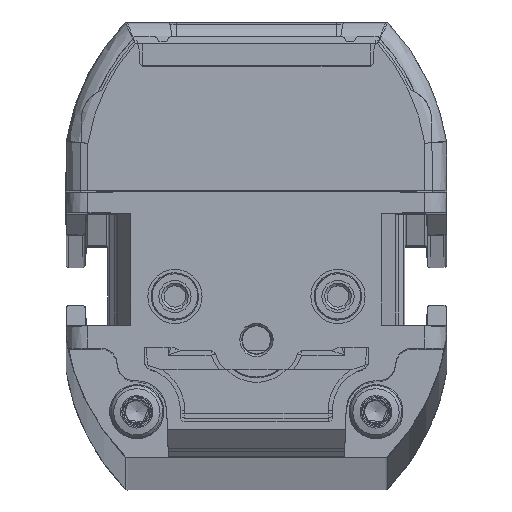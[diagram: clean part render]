
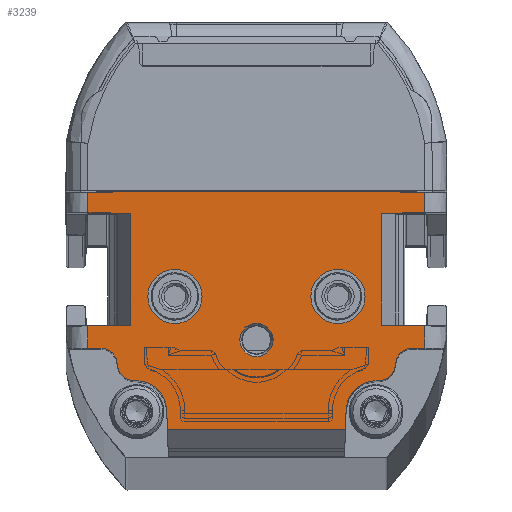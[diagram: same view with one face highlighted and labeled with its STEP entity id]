
A CAD part, top view. The second image highlights one B-rep face of the part: STEP entity #3239.
In plain terms, the highlighted planar face has unit normal (0, 0, 1).
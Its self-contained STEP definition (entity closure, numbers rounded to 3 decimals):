
#1178=FACE_BOUND('',#5343,.T.);
#1179=FACE_BOUND('',#5344,.T.);
#1180=FACE_BOUND('',#5345,.T.);
#1181=FACE_BOUND('',#5346,.T.);
#1900=CIRCLE('',#17502,2.5);
#1901=CIRCLE('',#17504,2.5);
#1902=CIRCLE('',#17506,1.55);
#1905=CIRCLE('',#17576,1.5);
#1906=CIRCLE('',#17577,1.5);
#1907=CIRCLE('',#17578,1.5);
#1908=CIRCLE('',#17579,1.5);
#1909=CIRCLE('',#17580,2.75);
#1910=CIRCLE('',#17581,2.75);
#3239=ADVANCED_FACE('',(#1178,#1179,#1180,#1181),#3754,.T.);
#3754=PLANE('',#17582);
#5343=EDGE_LOOP('',(#9281));
#5344=EDGE_LOOP('',(#9282));
#5345=EDGE_LOOP('',(#9283));
#5346=EDGE_LOOP('',(#9284,#9285,#9286,#9287,#9288,#9289,#9290,#9291,#9292,
#9293,#9294,#9295,#9296,#9297,#9298,#9299,#9300,#9301,#9302,#9303,#9304,
#9305,#9306,#9307,#9308,#9309));
#9281=ORIENTED_EDGE('',*,*,#13579,.T.);
#9282=ORIENTED_EDGE('',*,*,#13578,.F.);
#9283=ORIENTED_EDGE('',*,*,#13577,.F.);
#9284=ORIENTED_EDGE('',*,*,#13699,.F.);
#9285=ORIENTED_EDGE('',*,*,#13700,.T.);
#9286=ORIENTED_EDGE('',*,*,#13701,.T.);
#9287=ORIENTED_EDGE('',*,*,#13702,.T.);
#9288=ORIENTED_EDGE('',*,*,#13630,.T.);
#9289=ORIENTED_EDGE('',*,*,#13576,.T.);
#9290=ORIENTED_EDGE('',*,*,#13573,.T.);
#9291=ORIENTED_EDGE('',*,*,#13572,.T.);
#9292=ORIENTED_EDGE('',*,*,#13698,.T.);
#9293=ORIENTED_EDGE('',*,*,#13703,.F.);
#9294=ORIENTED_EDGE('',*,*,#13704,.F.);
#9295=ORIENTED_EDGE('',*,*,#13705,.F.);
#9296=ORIENTED_EDGE('',*,*,#13692,.T.);
#9297=ORIENTED_EDGE('',*,*,#13568,.F.);
#9298=ORIENTED_EDGE('',*,*,#13564,.T.);
#9299=ORIENTED_EDGE('',*,*,#13563,.F.);
#9300=ORIENTED_EDGE('',*,*,#13603,.T.);
#9301=ORIENTED_EDGE('',*,*,#13706,.F.);
#9302=ORIENTED_EDGE('',*,*,#13707,.T.);
#9303=ORIENTED_EDGE('',*,*,#13708,.T.);
#9304=ORIENTED_EDGE('',*,*,#13709,.F.);
#9305=ORIENTED_EDGE('',*,*,#13710,.F.);
#9306=ORIENTED_EDGE('',*,*,#13711,.F.);
#9307=ORIENTED_EDGE('',*,*,#13611,.T.);
#9308=ORIENTED_EDGE('',*,*,#13712,.F.);
#9309=ORIENTED_EDGE('',*,*,#13713,.F.);
#11499=VERTEX_POINT('',#29891);
#11500=VERTEX_POINT('',#29893);
#11501=VERTEX_POINT('',#29897);
#11502=VERTEX_POINT('',#29901);
#11504=VERTEX_POINT('',#29907);
#11506=VERTEX_POINT('',#29911);
#11507=VERTEX_POINT('',#29915);
#11508=VERTEX_POINT('',#29919);
#11509=VERTEX_POINT('',#29923);
#11510=VERTEX_POINT('',#29926);
#11511=VERTEX_POINT('',#29929);
#11528=VERTEX_POINT('',#30023);
#11533=VERTEX_POINT('',#30037);
#11534=VERTEX_POINT('',#30039);
#11547=VERTEX_POINT('',#30079);
#11581=VERTEX_POINT('',#30332);
#11585=VERTEX_POINT('',#30342);
#11586=VERTEX_POINT('',#30346);
#11587=VERTEX_POINT('',#30347);
#11588=VERTEX_POINT('',#30349);
#11589=VERTEX_POINT('',#30351);
#11590=VERTEX_POINT('',#30354);
#11591=VERTEX_POINT('',#30356);
#11592=VERTEX_POINT('',#30359);
#11593=VERTEX_POINT('',#30361);
#11594=VERTEX_POINT('',#30363);
#11595=VERTEX_POINT('',#30365);
#11596=VERTEX_POINT('',#30367);
#11597=VERTEX_POINT('',#30370);
#13563=EDGE_CURVE('',#11500,#11499,#15088,.T.);
#13564=EDGE_CURVE('',#11501,#11499,#15089,.T.);
#13568=EDGE_CURVE('',#11501,#11502,#15092,.T.);
#13572=EDGE_CURVE('',#11504,#11506,#15095,.T.);
#13573=EDGE_CURVE('',#11507,#11504,#15096,.T.);
#13576=EDGE_CURVE('',#11508,#11507,#15098,.T.);
#13577=EDGE_CURVE('',#11509,#11509,#1900,.T.);
#13578=EDGE_CURVE('',#11510,#11510,#1901,.T.);
#13579=EDGE_CURVE('',#11511,#11511,#1902,.T.);
#13603=EDGE_CURVE('',#11500,#11528,#15113,.T.);
#13611=EDGE_CURVE('',#11533,#11534,#15119,.T.);
#13630=EDGE_CURVE('',#11547,#11508,#15132,.T.);
#13692=EDGE_CURVE('',#11581,#11502,#15175,.T.);
#13698=EDGE_CURVE('',#11506,#11585,#15177,.T.);
#13699=EDGE_CURVE('',#11586,#11587,#15178,.T.);
#13700=EDGE_CURVE('',#11586,#11588,#1905,.T.);
#13701=EDGE_CURVE('',#11588,#11589,#1906,.T.);
#13702=EDGE_CURVE('',#11589,#11547,#15179,.T.);
#13703=EDGE_CURVE('',#11590,#11585,#15180,.T.);
#13704=EDGE_CURVE('',#11591,#11590,#15181,.T.);
#13705=EDGE_CURVE('',#11581,#11591,#15182,.T.);
#13706=EDGE_CURVE('',#11592,#11528,#15183,.T.);
#13707=EDGE_CURVE('',#11592,#11593,#1907,.T.);
#13708=EDGE_CURVE('',#11593,#11594,#1908,.T.);
#13709=EDGE_CURVE('',#11595,#11594,#15184,.T.);
#13710=EDGE_CURVE('',#11596,#11595,#1909,.T.);
#13711=EDGE_CURVE('',#11533,#11596,#15185,.T.);
#13712=EDGE_CURVE('',#11597,#11534,#15186,.T.);
#13713=EDGE_CURVE('',#11587,#11597,#1910,.T.);
#15088=LINE('',#29894,#16251);
#15089=LINE('',#29896,#16252);
#15092=LINE('',#29904,#16255);
#15095=LINE('',#29912,#16258);
#15096=LINE('',#29914,#16259);
#15098=LINE('',#29920,#16261);
#15113=LINE('',#30024,#16276);
#15119=LINE('',#30040,#16282);
#15132=LINE('',#30078,#16295);
#15175=LINE('',#30331,#16338);
#15177=LINE('',#30343,#16340);
#15178=LINE('',#30345,#16341);
#15179=LINE('',#30352,#16342);
#15180=LINE('',#30353,#16343);
#15181=LINE('',#30355,#16344);
#15182=LINE('',#30357,#16345);
#15183=LINE('',#30358,#16346);
#15184=LINE('',#30364,#16347);
#15185=LINE('',#30368,#16348);
#15186=LINE('',#30369,#16349);
#16251=VECTOR('',#20699,1.);
#16252=VECTOR('',#20702,1.);
#16255=VECTOR('',#20709,1.);
#16258=VECTOR('',#20716,1.);
#16259=VECTOR('',#20719,1.);
#16261=VECTOR('',#20725,1.);
#16276=VECTOR('',#20776,1.);
#16282=VECTOR('',#20790,1.);
#16295=VECTOR('',#20829,1.);
#16338=VECTOR('',#20940,1.);
#16340=VECTOR('',#20952,1.);
#16341=VECTOR('',#20955,1.);
#16342=VECTOR('',#20960,1.);
#16343=VECTOR('',#20961,1.);
#16344=VECTOR('',#20962,1.);
#16345=VECTOR('',#20963,1.);
#16346=VECTOR('',#20964,1.);
#16347=VECTOR('',#20969,1.);
#16348=VECTOR('',#20972,1.);
#16349=VECTOR('',#20973,1.);
#17502=AXIS2_PLACEMENT_3D('',#29922,#20728,#20729);
#17504=AXIS2_PLACEMENT_3D('',#29925,#20732,#20733);
#17506=AXIS2_PLACEMENT_3D('',#29928,#20736,#20737);
#17576=AXIS2_PLACEMENT_3D('',#30348,#20956,#20957);
#17577=AXIS2_PLACEMENT_3D('',#30350,#20958,#20959);
#17578=AXIS2_PLACEMENT_3D('',#30360,#20965,#20966);
#17579=AXIS2_PLACEMENT_3D('',#30362,#20967,#20968);
#17580=AXIS2_PLACEMENT_3D('',#30366,#20970,#20971);
#17581=AXIS2_PLACEMENT_3D('',#30371,#20974,#20975);
#17582=AXIS2_PLACEMENT_3D('',#30372,#20976,#20977);
#20699=DIRECTION('',(1.,0.017,0.));
#20702=DIRECTION('',(0.,-1.,0.));
#20709=DIRECTION('',(-1.,0.017,0.));
#20716=DIRECTION('',(1.,0.017,0.));
#20719=DIRECTION('',(0.,1.,0.));
#20725=DIRECTION('',(-1.,0.017,0.));
#20728=DIRECTION('',(0.,0.,1.));
#20729=DIRECTION('',(1.,0.,0.));
#20732=DIRECTION('',(0.,0.,1.));
#20733=DIRECTION('',(1.,0.,0.));
#20736=DIRECTION('',(0.,0.,-1.));
#20737=DIRECTION('',(1.,0.,0.));
#20776=DIRECTION('',(0.,-1.,0.));
#20790=DIRECTION('',(1.,0.,0.));
#20829=DIRECTION('',(0.,1.,0.));
#20940=DIRECTION('',(0.,-1.,0.));
#20952=DIRECTION('',(0.,1.,0.));
#20955=DIRECTION('',(-1.,0.,0.));
#20956=DIRECTION('',(0.,0.,1.));
#20957=DIRECTION('',(1.,0.,0.));
#20958=DIRECTION('',(0.,0.,-1.));
#20959=DIRECTION('',(1.,0.,0.));
#20960=DIRECTION('',(1.,0.,0.));
#20961=DIRECTION('',(1.,-0.017,0.));
#20962=DIRECTION('',(1.,0.,0.));
#20963=DIRECTION('',(1.,0.017,0.));
#20964=DIRECTION('',(-1.,0.,0.));
#20965=DIRECTION('',(0.,0.,-1.));
#20966=DIRECTION('',(1.,0.,0.));
#20967=DIRECTION('',(0.,0.,1.));
#20968=DIRECTION('',(1.,0.,0.));
#20969=DIRECTION('',(-1.,0.,0.));
#20970=DIRECTION('',(0.,0.,1.));
#20971=DIRECTION('',(1.,0.,0.));
#20972=DIRECTION('',(-0.035,0.999,0.));
#20973=DIRECTION('',(-0.035,-0.999,0.));
#20974=DIRECTION('',(0.,0.,1.));
#20975=DIRECTION('',(1.,0.,0.));
#20976=DIRECTION('',(0.,0.,1.));
#20977=DIRECTION('',(1.,0.,0.));
#29891=CARTESIAN_POINT('',(-11.55,12.107,1749.));
#29893=CARTESIAN_POINT('',(-15.5,12.038,1749.));
#29894=CARTESIAN_POINT('',(-17.709,11.999,1749.));
#29896=CARTESIAN_POINT('',(-11.55,0.,1749.));
#29897=CARTESIAN_POINT('',(-11.55,22.393,1749.));
#29901=CARTESIAN_POINT('',(-15.5,22.462,1749.));
#29904=CARTESIAN_POINT('',(-17.107,22.49,1749.));
#29907=CARTESIAN_POINT('',(11.55,22.393,1749.));
#29911=CARTESIAN_POINT('',(15.5,22.462,1749.));
#29912=CARTESIAN_POINT('',(-17.882,21.88,1749.));
#29914=CARTESIAN_POINT('',(11.55,0.,1749.));
#29915=CARTESIAN_POINT('',(11.55,12.107,1749.));
#29919=CARTESIAN_POINT('',(15.5,12.038,1749.));
#29920=CARTESIAN_POINT('',(-17.28,12.61,1749.));
#29922=CARTESIAN_POINT('',(-7.5,14.75,1749.));
#29923=CARTESIAN_POINT('',(-5.,14.75,1749.));
#29925=CARTESIAN_POINT('',(7.5,14.75,1749.));
#29926=CARTESIAN_POINT('',(10.,14.75,1749.));
#29928=CARTESIAN_POINT('',(0.,10.75,1749.));
#29929=CARTESIAN_POINT('',(1.55,10.75,1749.));
#30023=CARTESIAN_POINT('',(-15.5,10.,1749.));
#30024=CARTESIAN_POINT('',(-15.5,0.,1749.));
#30037=CARTESIAN_POINT('',(-8.189,2.5,1749.));
#30039=CARTESIAN_POINT('',(8.189,2.5,1749.));
#30040=CARTESIAN_POINT('',(-17.5,2.5,1749.));
#30078=CARTESIAN_POINT('',(15.5,0.,1749.));
#30079=CARTESIAN_POINT('',(15.5,10.,1749.));
#30331=CARTESIAN_POINT('',(-15.5,0.,1749.));
#30332=CARTESIAN_POINT('',(-15.5,24.317,1749.));
#30342=CARTESIAN_POINT('',(15.5,24.317,1749.));
#30343=CARTESIAN_POINT('',(15.5,0.,1749.));
#30345=CARTESIAN_POINT('',(23.25,7.,1749.));
#30346=CARTESIAN_POINT('',(11.3,7.,1749.));
#30347=CARTESIAN_POINT('',(11.002,7.,1749.));
#30348=CARTESIAN_POINT('',(11.3,8.5,1749.));
#30349=CARTESIAN_POINT('',(12.8,8.5,1749.));
#30350=CARTESIAN_POINT('',(14.3,8.5,1749.));
#30351=CARTESIAN_POINT('',(14.3,10.,1749.));
#30352=CARTESIAN_POINT('',(-17.5,10.,1749.));
#30353=CARTESIAN_POINT('',(-17.066,24.886,1749.));
#30354=CARTESIAN_POINT('',(13.025,24.36,1749.));
#30355=CARTESIAN_POINT('',(-17.5,24.36,1749.));
#30356=CARTESIAN_POINT('',(-13.025,24.36,1749.));
#30357=CARTESIAN_POINT('',(-17.924,24.275,1749.));
#30358=CARTESIAN_POINT('',(-17.5,10.,1749.));
#30359=CARTESIAN_POINT('',(-14.3,10.,1749.));
#30360=CARTESIAN_POINT('',(-14.3,8.5,1749.));
#30361=CARTESIAN_POINT('',(-12.8,8.5,1749.));
#30362=CARTESIAN_POINT('',(-11.3,8.5,1749.));
#30363=CARTESIAN_POINT('',(-11.3,7.,1749.));
#30364=CARTESIAN_POINT('',(-11.,7.,1749.));
#30365=CARTESIAN_POINT('',(-11.002,7.,1749.));
#30366=CARTESIAN_POINT('',(-11.002,4.25,1749.));
#30367=CARTESIAN_POINT('',(-8.253,4.346,1749.));
#30368=CARTESIAN_POINT('',(-8.25,4.25,1749.));
#30369=CARTESIAN_POINT('',(8.25,4.25,1749.));
#30370=CARTESIAN_POINT('',(8.253,4.346,1749.));
#30371=CARTESIAN_POINT('',(11.002,4.25,1749.));
#30372=CARTESIAN_POINT('',(-17.5,0.,1749.));
